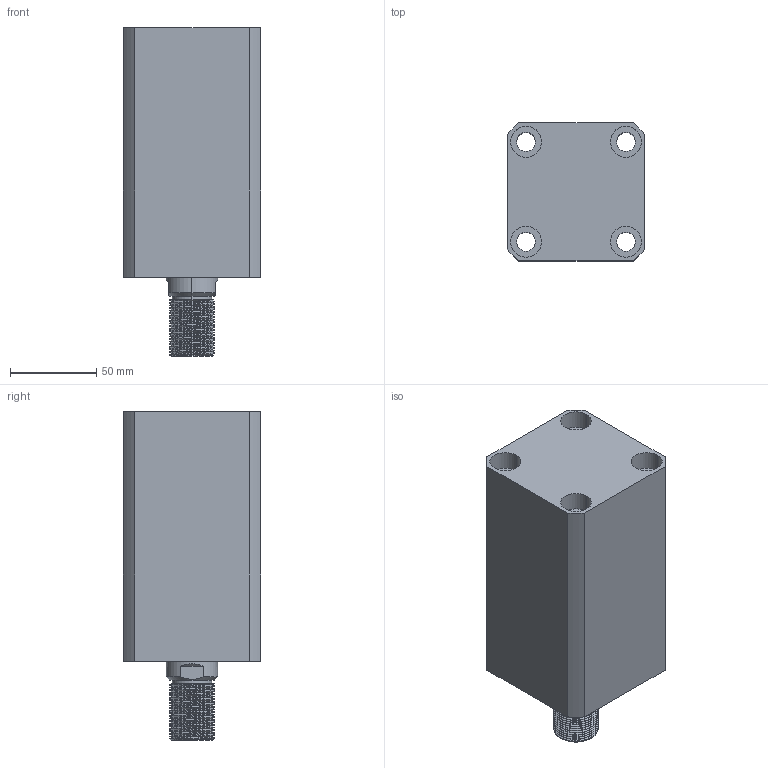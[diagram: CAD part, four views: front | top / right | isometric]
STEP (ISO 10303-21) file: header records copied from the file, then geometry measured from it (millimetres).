
FILE_DESCRIPTION (( 'STEP AP203' ), '1' );
FILE_NAME ('CHTB-SDMA50-85W.STEP', '2018-05-19T02:50:42', ( '' ), ( '' ), 'SwSTEP 2.0', 'SolidWorks 2015', '' );
FILE_SCHEMA (( 'CONFIG_CONTROL_DESIGN' ));
Length unit declared in the file: millimetre
Products named in the file (5): 掛极SDMA50-85W; CHTB-SDMA50-85W; M6; 活塞杆SDMA50-85W; CHTM-SDMA50QG
Assembly tree (5 placements, depth 2):
  CHTB-SDMA50-85W
    掛极SDMA50-85W
    活塞杆SDMA50-85W
    CHTM-SDMA50QG
    M6  x2
Bounding box: 80 x 80 x 191 mm (x, y, z)
Volume: 758616 mm3; surface area: 141771 mm2
Topology: 5 solids, 5 shells, 312 faces, 831 edges, 553 vertices
Faces by surface type: cylinder 179, plane 60, cone 29, bspline 28, torus 16
Entity records: 17949 total; most frequent: CARTESIAN_POINT 11067, ORIENTED_EDGE 1468, DIRECTION 1169, EDGE_CURVE 734, VERTEX_POINT 492, AXIS2_PLACEMENT_3D 472, EDGE_LOOP 320, ADVANCED_FACE 277
